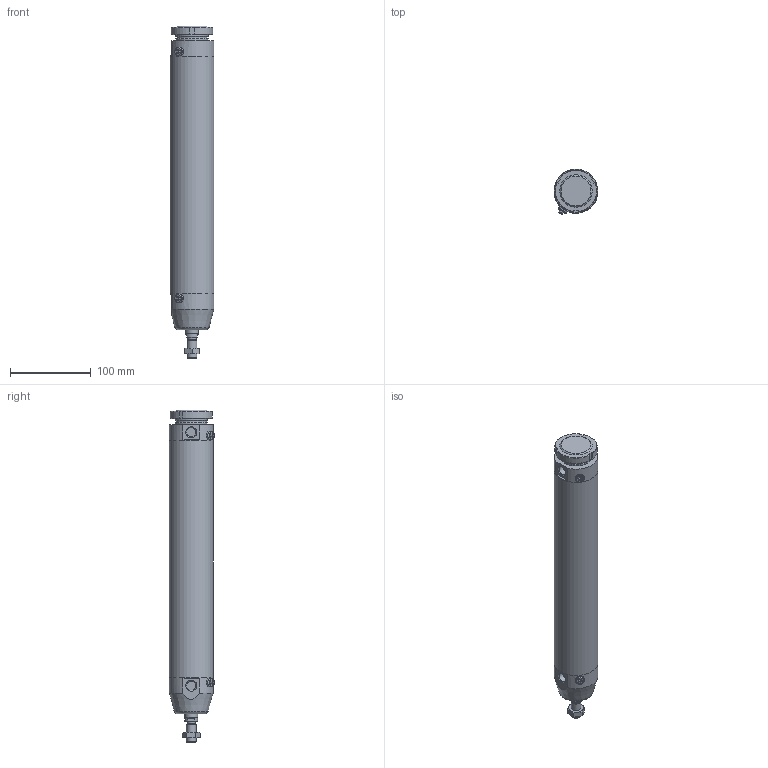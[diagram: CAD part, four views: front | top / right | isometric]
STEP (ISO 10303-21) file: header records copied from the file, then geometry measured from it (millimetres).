
FILE_DESCRIPTION(/* description */ (''),/* implementation_level */ '2;1');
FILE_NAME(/* name */ 'I:\Area Tecnica\Documenti\A-Manieri\_Inventor\12X\12X#B_###_####_#_#\12XBB_050_0250_#_#.stp',/* time_stamp */ '2015-04-28T14:29:06+02:00',/* author */ ('maniean1'),/* organization */ ('Pneumax S.p.A.'),/* preprocessor_version */ 'ST-DEVELOPER v15.2',/* originating_system */ 'Autodesk Inventor 2014',/* authorisation */ '');
FILE_SCHEMA (('AUTOMOTIVE_DESIGN { 1 0 10303 214 3 1 1 }'));
Length unit declared in the file: millimetre
Products named in the file (7): C1250_619-0250; 12X50_614; S12X50_0250; 12X_50_11; 12X50_621; G12X_050_05; 12XBB_050_0250_#_#
Bounding box: 54 x 55.88 x 410 mm (x, y, z)
Volume: 399495.5 mm3; surface area: 151630.2 mm2
Topology: 6 solids, 6 shells, 98 faces, 217 edges, 140 vertices
Faces by surface type: plane 52, cylinder 24, cone 19, torus 3
Full cylindrical faces by diameter (mm): 5 x2, 10.2 x1, 11 x2, 11.4 x2, 12 x2, 14 x1, 15.6 x1, 16 x1, 38.2 x1, 40 x3, 50 x2, 54 x3
Entity records: 2646 total; most frequent: CARTESIAN_POINT 539, DIRECTION 439, ORIENTED_EDGE 346, AXIS2_PLACEMENT_3D 186, EDGE_CURVE 173, EDGE_LOOP 150, VERTEX_POINT 131, ADVANCED_FACE 98
